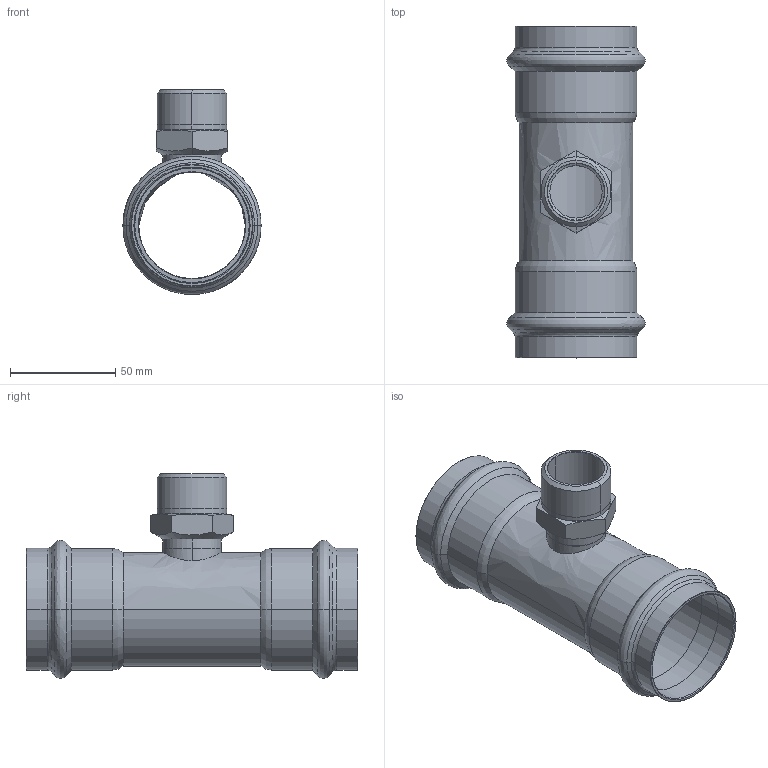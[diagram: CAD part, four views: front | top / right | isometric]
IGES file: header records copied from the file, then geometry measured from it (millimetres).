
Start section: Elysium IGES Interface
Global section: file name: C:\Users\Wallenburg\Desktop\3d modellen sudo\S-Pr VP\SP6132GV\6132GVW54154.igs; native system: CoCreate Modeling 17.00A  17-Jun-2010; preprocessor: CoCreate IGES_3D V2.2; author: Unknown; organization: Unknown; date: 20130123.164811; units: millimetre
Bounding box: 65.68 x 157.73 x 97.33 mm (x, y, z)
Volume: 67244.3 mm3; surface area: 64176.4 mm2
Topology: 1 solids, 1 shells, 114 faces, 242 edges, 136 vertices
Faces by surface type: bspline 114
